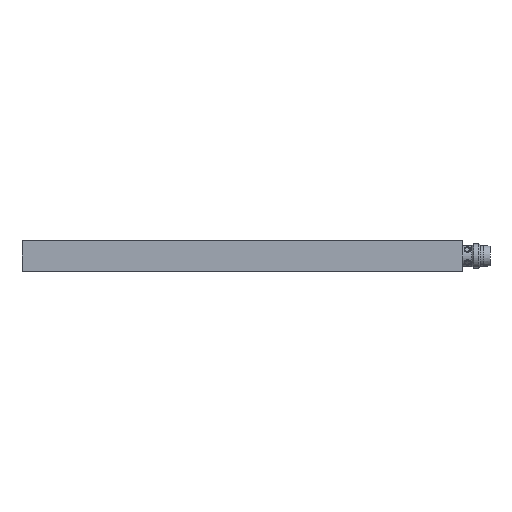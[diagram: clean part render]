
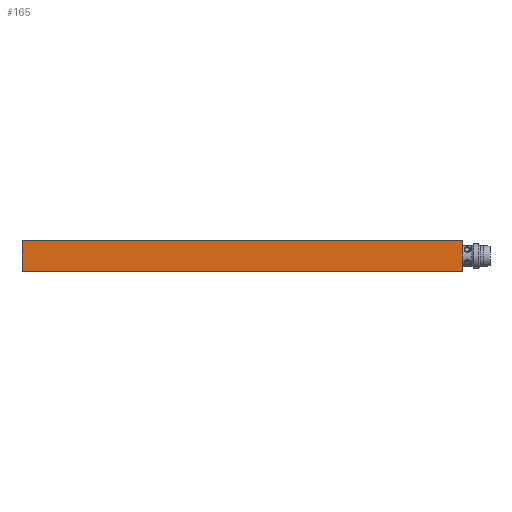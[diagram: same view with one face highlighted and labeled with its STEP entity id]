
A CAD part, front view. The second image highlights one B-rep face of the part: STEP entity #165.
In plain terms, the highlighted planar face has unit normal (0, -1, 0).
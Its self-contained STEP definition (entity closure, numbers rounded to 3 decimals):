
#165 = ADVANCED_FACE( '', ( #362 ), #363, .T. );
#362 = FACE_OUTER_BOUND( '', #569, .T. );
#363 = PLANE( '', #570 );
#569 = EDGE_LOOP( '', ( #1209, #1210, #1211, #1212 ) );
#570 = AXIS2_PLACEMENT_3D( '', #1213, #1214, #1215 );
#1209 = ORIENTED_EDGE( '', *, *, #1467, .T. );
#1210 = ORIENTED_EDGE( '', *, *, #1442, .F. );
#1211 = ORIENTED_EDGE( '', *, *, #1468, .F. );
#1212 = ORIENTED_EDGE( '', *, *, #1465, .T. );
#1213 = CARTESIAN_POINT( '', ( 0., -37., 5. ) );
#1214 = DIRECTION( '', ( 0., -1., 0. ) );
#1215 = DIRECTION( '', ( -1., 0., 0. ) );
#1442 = EDGE_CURVE( '', #1760, #1755, #1762, .T. );
#1465 = EDGE_CURVE( '', #1800, #1798, #1801, .T. );
#1467 = EDGE_CURVE( '', #1798, #1755, #1803, .T. );
#1468 = EDGE_CURVE( '', #1800, #1760, #1804, .T. );
#1755 = VERTEX_POINT( '', #2312 );
#1760 = VERTEX_POINT( '', #2319 );
#1762 = LINE( '', #2322, #2323 );
#1798 = VERTEX_POINT( '', #2376 );
#1800 = VERTEX_POINT( '', #2379 );
#1801 = LINE( '', #2380, #2381 );
#1803 = LINE( '', #2384, #2385 );
#1804 = LINE( '', #2386, #2387 );
#2312 = CARTESIAN_POINT( '', ( 144., -37., -5. ) );
#2319 = CARTESIAN_POINT( '', ( 144., -37., 5. ) );
#2322 = CARTESIAN_POINT( '', ( 144., -37., 5. ) );
#2323 = VECTOR( '', #2727, 1. );
#2376 = CARTESIAN_POINT( '', ( 0., -37., -5. ) );
#2379 = CARTESIAN_POINT( '', ( 0., -37., 5. ) );
#2380 = CARTESIAN_POINT( '', ( 0., -37., 5. ) );
#2381 = VECTOR( '', #2758, 1. );
#2384 = CARTESIAN_POINT( '', ( 0., -37., -5. ) );
#2385 = VECTOR( '', #2760, 1. );
#2386 = CARTESIAN_POINT( '', ( 0., -37., 5. ) );
#2387 = VECTOR( '', #2761, 1. );
#2727 = DIRECTION( '', ( 0., 0., -1. ) );
#2758 = DIRECTION( '', ( 0., 0., -1. ) );
#2760 = DIRECTION( '', ( 1., 0., 0. ) );
#2761 = DIRECTION( '', ( 1., 0., 0. ) );
